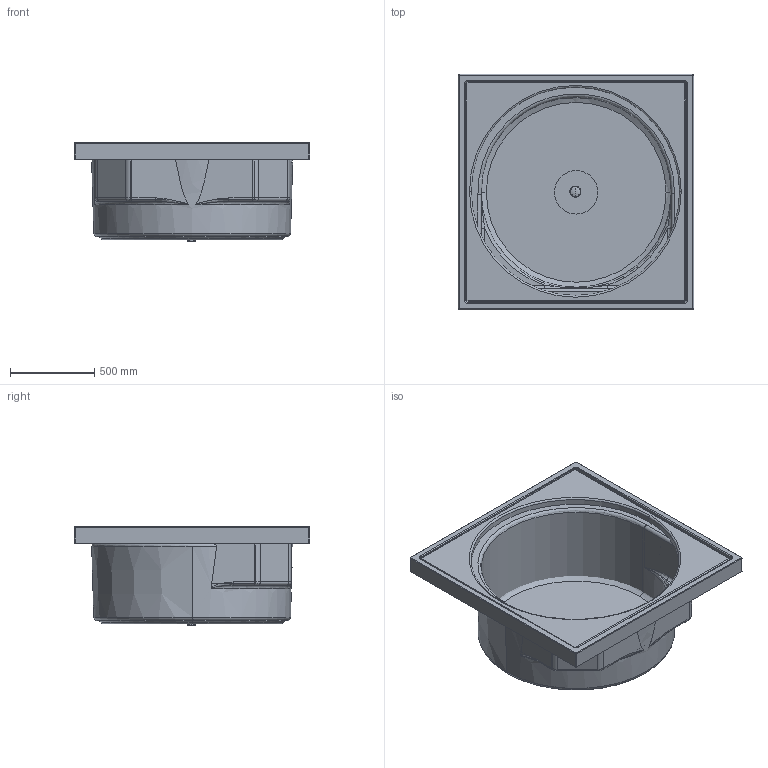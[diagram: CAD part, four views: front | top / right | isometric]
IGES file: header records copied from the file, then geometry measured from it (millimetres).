
Global section: file name: No Iges File Name specified; native system: Autodesk Inventor 2009; preprocessor: AutoDesk Inventor Iges Exporter R2009; author: Andreas; date: 20090219.160508; units: millimetre
Bounding box: 1400 x 1400 x 589.4 mm (x, y, z)
Volume: 88177766.2 mm3; surface area: 16473768.1 mm2
Topology: 7 solids, 7 shells, 283 faces, 680 edges, 409 vertices
Faces by surface type: plane 94, cylinder 69, revolution 49, bspline 31, torus 30, cone 6, sphere 4
